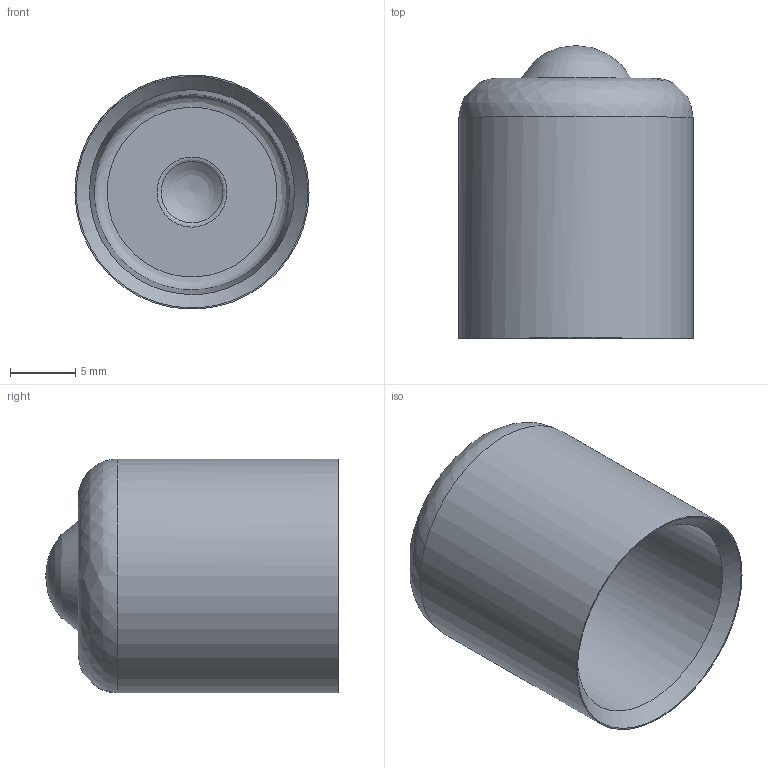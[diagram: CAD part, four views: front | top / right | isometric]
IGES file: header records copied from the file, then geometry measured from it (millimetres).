
Global section: file name: DR_PR25-16; native system: Autodesk Inventor 2015; preprocessor: unknown; author: Administrator; date: 20170922.105003; units: millimetre
Bounding box: 18 x 22.5 x 17.98 mm (x, y, z)
Volume: 1686.4 mm3; surface area: 2391.2 mm2
Topology: 1 solids, 1 shells, 11 faces, 22 edges, 16 vertices
Faces by surface type: bspline 11
